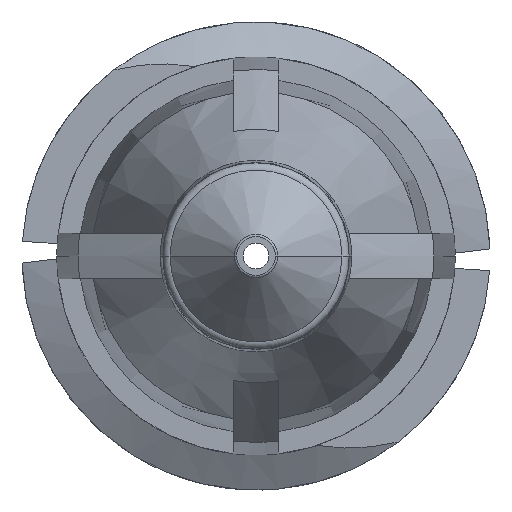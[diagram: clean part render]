
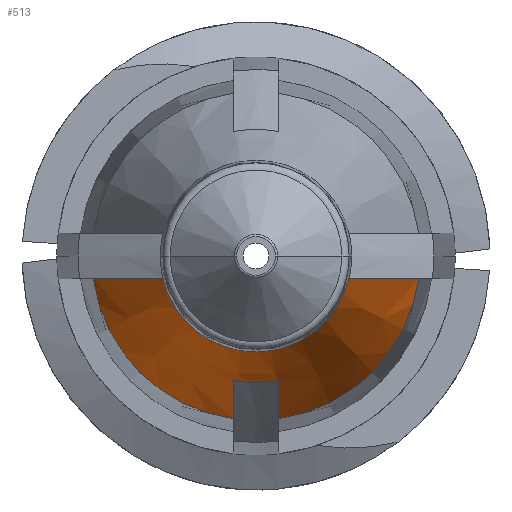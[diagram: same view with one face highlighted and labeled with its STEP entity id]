
A CAD part, front view. The second image highlights one B-rep face of the part: STEP entity #513.
In plain terms, the highlighted conical face has half-angle 20 degrees and reference radius 2.745 mm.
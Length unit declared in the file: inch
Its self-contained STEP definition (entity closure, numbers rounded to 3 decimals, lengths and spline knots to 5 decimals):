
#10 = EDGE_CURVE ( 'NONE', #1724, #2686, #590, .T. ) ;
#25 = DIRECTION ( 'NONE',  ( 0., 1., 0. ) ) ;
#29 = VERTEX_POINT ( 'NONE', #3042 ) ;
#161 = CIRCLE ( 'NONE', #2459, 0.063 ) ;
#242 = CARTESIAN_POINT ( 'NONE',  ( 0., -0.52985, 0. ) ) ;
#270 = VERTEX_POINT ( 'NONE', #2878 ) ;
#271 = AXIS2_PLACEMENT_3D ( 'NONE', #1567, #25, #275 ) ;
#272 = EDGE_CURVE ( 'NONE', #1724, #2293, #161, .T. ) ;
#275 = DIRECTION ( 'NONE',  ( -1., 0., 0. ) ) ;
#364 = VERTEX_POINT ( 'NONE', #1113 ) ;
#375 = B_SPLINE_CURVE_WITH_KNOTS ( 'NONE', 3,
 ( #2199, #619, #868, #1892 ),
 .UNSPECIFIED., .F., .F.,
 ( 4, 4 ),
 ( 0.00282, 0.00617 ),
 .UNSPECIFIED. ) ;
#451 = AXIS2_PLACEMENT_3D ( 'NONE', #889, #1959, #2736 ) ;
#487 = DIRECTION ( 'NONE',  ( 1., 0., 0. ) ) ;
#513 = ADVANCED_FACE ( 'NONE', ( #1543 ), #1468, .T. ) ;
#538 = CIRCLE ( 'NONE', #271, 0.08335 ) ;
#590 = B_SPLINE_CURVE_WITH_KNOTS ( 'NONE', 3,
 ( #1207, #2237, #919, #909 ),
 .UNSPECIFIED., .F., .F.,
 ( 4, 4 ),
 ( 0.00282, 0.00617 ),
 .UNSPECIFIED. ) ;
#619 = CARTESIAN_POINT ( 'NONE',  ( -0.07664, -0.48863, -0.015 ) ) ;
#634 = CARTESIAN_POINT ( 'NONE',  ( 0.06119, -0.52985, -0.015 ) ) ;
#855 = EDGE_CURVE ( 'NONE', #2293, #364, #375, .T. ) ;
#868 = CARTESIAN_POINT ( 'NONE',  ( -0.09185, -0.44732, -0.015 ) ) ;
#889 = CARTESIAN_POINT ( 'NONE',  ( 0., -0.406, 0. ) ) ;
#909 = CARTESIAN_POINT ( 'NONE',  ( 0.10703, -0.406, -0.015 ) ) ;
#919 = CARTESIAN_POINT ( 'NONE',  ( 0.09185, -0.44732, -0.015 ) ) ;
#947 = CARTESIAN_POINT ( 'NONE',  ( 0.015, -0.406, -0.10703 ) ) ;
#1007 = CARTESIAN_POINT ( 'NONE',  ( 0.015, -0.406, -0.10703 ) ) ;
#1010 = ORIENTED_EDGE ( 'NONE', *, *, #2366, .F. ) ;
#1022 = AXIS2_PLACEMENT_3D ( 'NONE', #2618, #2883, #1033 ) ;
#1033 = DIRECTION ( 'NONE',  ( 1., 0., 0. ) ) ;
#1093 = B_SPLINE_CURVE_WITH_KNOTS ( 'NONE', 3,
 ( #1007, #3086, #1511, #2874 ),
 .UNSPECIFIED., .F., .F.,
 ( 4, 4 ),
 ( 0.00343, 0.00527 ),
 .UNSPECIFIED. ) ;
#1113 = CARTESIAN_POINT ( 'NONE',  ( -0.10703, -0.406, -0.015 ) ) ;
#1199 = CIRCLE ( 'NONE', #1022, 0.10808 ) ;
#1207 = CARTESIAN_POINT ( 'NONE',  ( 0.06119, -0.52985, -0.015 ) ) ;
#1255 = EDGE_CURVE ( 'NONE', #2825, #270, #2156, .T. ) ;
#1330 = CARTESIAN_POINT ( 'NONE',  ( -0.015, -0.45131, -0.09036 ) ) ;
#1468 = CONICAL_SURFACE ( 'NONE', #451, 0.10808, 0.349 ) ;
#1479 = VERTEX_POINT ( 'NONE', #947 ) ;
#1511 = CARTESIAN_POINT ( 'NONE',  ( 0.015, -0.45131, -0.09036 ) ) ;
#1543 = FACE_OUTER_BOUND ( 'NONE', #2239, .T. ) ;
#1567 = CARTESIAN_POINT ( 'NONE',  ( 0., -0.47395, 0. ) ) ;
#1593 = AXIS2_PLACEMENT_3D ( 'NONE', #1826, #2102, #487 ) ;
#1621 = ORIENTED_EDGE ( 'NONE', *, *, #2300, .F. ) ;
#1724 = VERTEX_POINT ( 'NONE', #634 ) ;
#1729 = ORIENTED_EDGE ( 'NONE', *, *, #1255, .F. ) ;
#1826 = CARTESIAN_POINT ( 'NONE',  ( 0., -0.406, 0. ) ) ;
#1892 = CARTESIAN_POINT ( 'NONE',  ( -0.10703, -0.406, -0.015 ) ) ;
#1959 = DIRECTION ( 'NONE',  ( 0., 1., 0. ) ) ;
#1990 = CARTESIAN_POINT ( 'NONE',  ( -0.06119, -0.52985, -0.015 ) ) ;
#2082 = ORIENTED_EDGE ( 'NONE', *, *, #272, .T. ) ;
#2102 = DIRECTION ( 'NONE',  ( 0., 1., 0. ) ) ;
#2128 = CARTESIAN_POINT ( 'NONE',  ( -0.015, -0.42866, -0.0987 ) ) ;
#2156 = B_SPLINE_CURVE_WITH_KNOTS ( 'NONE', 3,
 ( #3168, #1330, #2128, #3158 ),
 .UNSPECIFIED., .F., .F.,
 ( 4, 4 ),
 ( 0.00247, 0.00431 ),
 .UNSPECIFIED. ) ;
#2199 = CARTESIAN_POINT ( 'NONE',  ( -0.06119, -0.52985, -0.015 ) ) ;
#2237 = CARTESIAN_POINT ( 'NONE',  ( 0.07664, -0.48863, -0.015 ) ) ;
#2239 = EDGE_LOOP ( 'NONE', ( #3323, #2082, #2266, #1621, #1729, #2742, #1010, #3381 ) ) ;
#2266 = ORIENTED_EDGE ( 'NONE', *, *, #855, .T. ) ;
#2293 = VERTEX_POINT ( 'NONE', #1990 ) ;
#2300 = EDGE_CURVE ( 'NONE', #270, #364, #1199, .T. ) ;
#2366 = EDGE_CURVE ( 'NONE', #1479, #29, #1093, .T. ) ;
#2435 = EDGE_CURVE ( 'NONE', #29, #2825, #538, .T. ) ;
#2459 = AXIS2_PLACEMENT_3D ( 'NONE', #242, #3122, #3364 ) ;
#2486 = CIRCLE ( 'NONE', #1593, 0.10808 ) ;
#2618 = CARTESIAN_POINT ( 'NONE',  ( 0., -0.406, 0. ) ) ;
#2686 = VERTEX_POINT ( 'NONE', #3268 ) ;
#2736 = DIRECTION ( 'NONE',  ( 1., 0., 0. ) ) ;
#2742 = ORIENTED_EDGE ( 'NONE', *, *, #2435, .F. ) ;
#2825 = VERTEX_POINT ( 'NONE', #2879 ) ;
#2871 = EDGE_CURVE ( 'NONE', #2686, #1479, #2486, .T. ) ;
#2874 = CARTESIAN_POINT ( 'NONE',  ( 0.015, -0.47395, -0.08198 ) ) ;
#2878 = CARTESIAN_POINT ( 'NONE',  ( -0.015, -0.406, -0.10703 ) ) ;
#2879 = CARTESIAN_POINT ( 'NONE',  ( -0.015, -0.47395, -0.08198 ) ) ;
#2883 = DIRECTION ( 'NONE',  ( 0., 1., 0. ) ) ;
#3042 = CARTESIAN_POINT ( 'NONE',  ( 0.015, -0.47395, -0.08198 ) ) ;
#3086 = CARTESIAN_POINT ( 'NONE',  ( 0.015, -0.42866, -0.0987 ) ) ;
#3122 = DIRECTION ( 'NONE',  ( 0., 1., 0. ) ) ;
#3158 = CARTESIAN_POINT ( 'NONE',  ( -0.015, -0.406, -0.10703 ) ) ;
#3168 = CARTESIAN_POINT ( 'NONE',  ( -0.015, -0.47395, -0.08198 ) ) ;
#3268 = CARTESIAN_POINT ( 'NONE',  ( 0.10703, -0.406, -0.015 ) ) ;
#3323 = ORIENTED_EDGE ( 'NONE', *, *, #10, .F. ) ;
#3364 = DIRECTION ( 'NONE',  ( 1., 0., 0. ) ) ;
#3381 = ORIENTED_EDGE ( 'NONE', *, *, #2871, .F. ) ;
